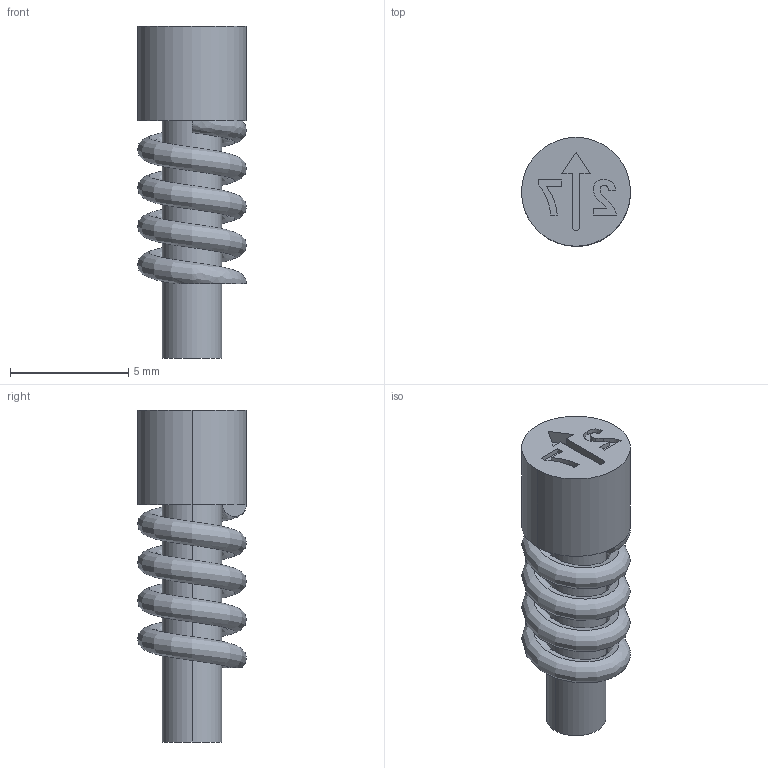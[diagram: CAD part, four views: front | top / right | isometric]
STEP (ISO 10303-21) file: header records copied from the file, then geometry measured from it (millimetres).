
FILE_DESCRIPTION (( 'STEP AP203' ), '1' );
FILE_NAME ('DLP08-27.step', '2026-01-23T19:47:44', ( '' ), ( '' ), 'SwSTEP 2.0', 'SolidWorks 2023', '' );
FILE_SCHEMA (( 'CONFIG_CONTROL_DESIGN' ));
Length unit declared in the file: millimetre
Products named in the file (1): DLP08-27
Bounding box: 4.6 x 4.6 x 14.01 mm (x, y, z)
Volume: 151.2 mm3; surface area: 327.4 mm2
Topology: 2 solids, 2 shells, 43 faces, 105 edges, 70 vertices
Faces by surface type: plane 25, bspline 13, cylinder 5
Entity records: 3052 total; most frequent: CARTESIAN_POINT 2042, ORIENTED_EDGE 210, DIRECTION 153, EDGE_CURVE 105, VERTEX_POINT 70, VECTOR 63, LINE 63, EDGE_LOOP 47
